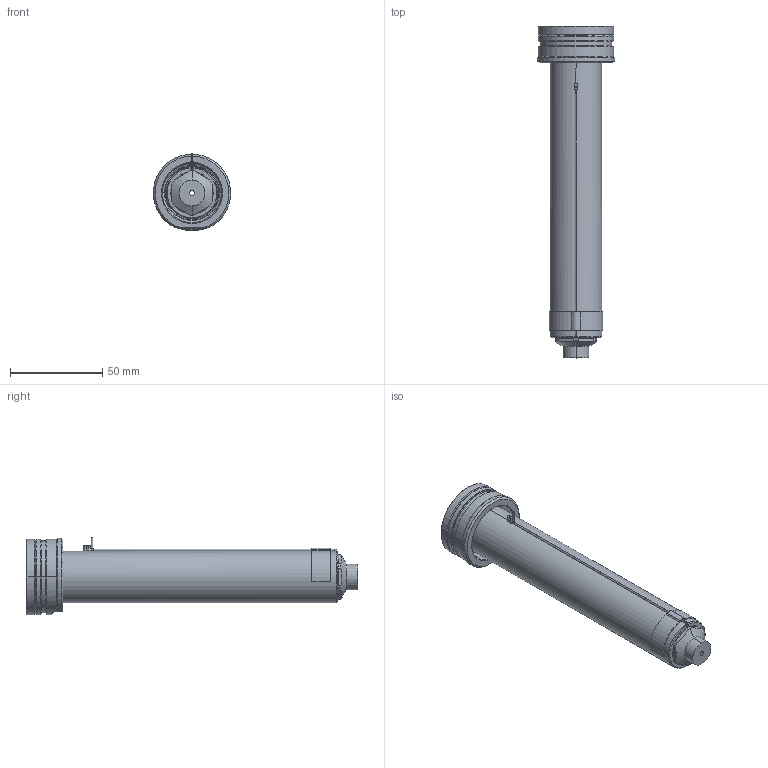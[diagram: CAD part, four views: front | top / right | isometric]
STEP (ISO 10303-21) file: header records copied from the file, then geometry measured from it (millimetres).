
FILE_DESCRIPTION((''),'2;1');
FILE_NAME('EO10_VG-FB_STD_160_SW','2024-02-19T13:34:04',('sundharh'),(''),'CREO PARAMETRIC BY PTC INC, 2023154','CREO PARAMETRIC BY PTC INC, 2023154','');
FILE_SCHEMA(('CONFIG_CONTROL_DESIGN'));
Length unit declared in the file: millimetre
Products named in the file (1): EO10_VG-FB_STD_160_SW
Bounding box: 41.85 x 180 x 42.02 mm (x, y, z)
Volume: 104578.2 mm3; surface area: 28505.1 mm2
Topology: 1 solids, 1 shells, 192 faces, 470 edges, 286 vertices
Faces by surface type: cylinder 71, plane 46, cone 37, torus 23, bspline 13, sphere 2
Entity records: 6583 total; most frequent: CARTESIAN_POINT 1973, DIRECTION 1027, ORIENTED_EDGE 932, EDGE_CURVE 466, AXIS2_PLACEMENT_3D 430, VERTEX_POINT 286, CIRCLE 251, EDGE_LOOP 208
